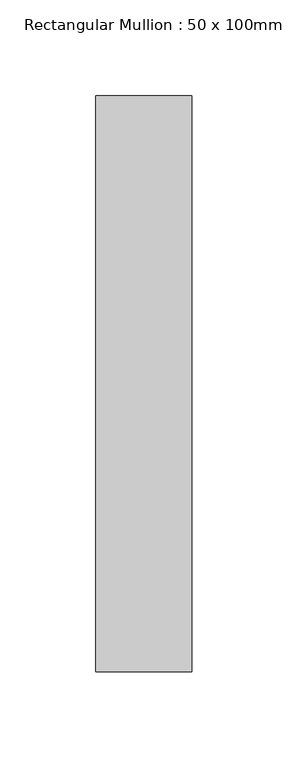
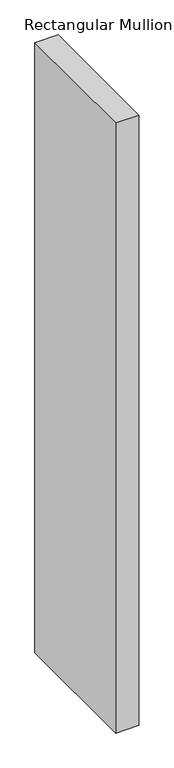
"""IFC4 building model written with IfcOpenShell, lengths in millimetres: member geometry, Rectangular Mullion : 50 x 100mm."""

import ifcopenshell
import ifcopenshell.guid

model = None  # the IFC model being written
_history = None  # IfcOwnerHistory: only IFC2X3 demands one
_inside = {}  # id of a spatial element -> (the spatial element, [elements in it])
_under = {}  # id of a project, library or spatial element -> (it, [spatial elements below it])
_declared = {}  # id of a project -> (the project, [libraries it declares])
_typed = {}  # id of a type object -> (the type object, [elements of that type])
_made_of = {}  # id of a material, layer set ... -> (it, [elements and type objects made of it])


def new_model(schema):
    """Start an empty IFC model of exactly this schema.

    Asked for "IFC4X3", IfcOpenShell would pick the latest addendum, in which some entities
    have other attributes; the version numbers below select the first issue.
    IFC2X3 requires an IfcOwnerHistory on every rooted entity: one is made here for all.
    """
    global model, _history
    if schema == "IFC4X3":
        model = ifcopenshell.file(schema_version=(4, 3, 0, 0))
    else:
        model = ifcopenshell.file(schema=schema)
    _inside.clear()
    _under.clear()
    _declared.clear()
    _typed.clear()
    _made_of.clear()
    _history = None
    if model.schema == "IFC2X3":
        org = make("IfcOrganization", Name="unknown")
        user = make(
            "IfcPersonAndOrganization",
            ThePerson=make("IfcPerson", FamilyName="unknown"),
            TheOrganization=org,
        )
        app = make(
            "IfcApplication",
            ApplicationDeveloper=org,
            Version="unknown",
            ApplicationFullName="unknown",
            ApplicationIdentifier="unknown",
        )
        _history = make(
            "IfcOwnerHistory",
            OwningUser=user,
            OwningApplication=app,
            ChangeAction="ADDED",
            CreationDate=0,
        )
    return model


def make(cls, **values):
    """One entity of the class cls with the attributes given. An attribute that is None is left unset."""
    return model.create_entity(
        cls, **{name: value for name, value in values.items() if value is not None}
    )


def rooted(cls, **values):
    """An entity with a GlobalId (a new one), such as an element, a storey or a relation."""
    return make(cls, GlobalId=ifcopenshell.guid.new(), OwnerHistory=_history, **values)


def si_unit(unit_type, name, prefix=None):
    """IfcSIUnit, for example si_unit("LENGTHUNIT", "METRE", prefix="MILLI")."""
    return make("IfcSIUnit", UnitType=unit_type, Prefix=prefix, Name=name)


def assignment(units):
    """IfcUnitAssignment: the units of a project."""
    return None if units is None else make("IfcUnitAssignment", Units=units)


def point(xyz):
    """IfcCartesianPoint."""
    return None if xyz is None else make("IfcCartesianPoint", Coordinates=xyz)


def direction(xyz):
    """IfcDirection."""
    return None if xyz is None else make("IfcDirection", DirectionRatios=xyz)


def frame(location, z_axis=None, x_axis=None):
    """IfcAxis2Placement3D, a coordinate frame: its origin and axes. An axis left out is left unset."""
    return make(
        "IfcAxis2Placement3D",
        Location=point(location),
        Axis=direction(z_axis),
        RefDirection=direction(x_axis),
    )


def origin():
    """The frame at (0, 0, 0) with its axes left unset."""
    return frame((0.0, 0.0, 0.0))


def place(relative_to, where):
    """IfcLocalPlacement: puts the frame where relative to a parent placement (None: the world)."""
    return make(
        "IfcLocalPlacement", PlacementRelTo=relative_to, RelativePlacement=where
    )


def context(
    kind, dimensions, precision=None, world=None, true_north=None, identifier=None
):
    """IfcGeometricRepresentationContext, for example the 3D "Model" context."""
    return make(
        "IfcGeometricRepresentationContext",
        ContextIdentifier=identifier,
        ContextType=kind,
        CoordinateSpaceDimension=dimensions,
        Precision=precision,
        WorldCoordinateSystem=world,
        TrueNorth=true_north,
    )


def project(units=None, contexts=None):
    """IfcProject with its units and contexts."""
    return rooted(
        "IfcProject",
        Name="project",
        RepresentationContexts=contexts,
        UnitsInContext=assignment(units),
    )


def spatial(cls, under=None, at=None, **own):
    """A site, building, storey or space (cls), placed at a placement, below another one or the project."""
    s = rooted(cls, ObjectPlacement=at, **own)
    if under is not None:
        _under.setdefault(under.id(), (under, []))[1].append(s)
    return s


def polyline(points):
    """IfcPolyline through the points."""
    return make("IfcPolyline", Points=[point(p) for p in points])


def outline(outer, holes=None, kind="AREA"):
    """IfcArbitraryClosedProfileDef: a profile drawn as a closed curve; with holes, ...WithVoids."""
    if holes is None:
        return make("IfcArbitraryClosedProfileDef", ProfileType=kind, OuterCurve=outer)
    return make(
        "IfcArbitraryProfileDefWithVoids",
        ProfileType=kind,
        OuterCurve=outer,
        InnerCurves=holes,
    )


def extrude(swept, where, along, depth):
    """IfcExtrudedAreaSolid: the profile swept, set in the frame where, extruded along a direction by depth."""
    return make(
        "IfcExtrudedAreaSolid",
        SweptArea=swept,
        Position=where,
        ExtrudedDirection=direction(along),
        Depth=depth,
    )


def shape(context_of_items, identifier, shape_type, items):
    """IfcShapeRepresentation: the items that make up one representation, for example the "Body"."""
    return make(
        "IfcShapeRepresentation",
        ContextOfItems=context_of_items,
        RepresentationIdentifier=identifier,
        RepresentationType=shape_type,
        Items=items,
    )


def source(mapping_origin, context_of_items, identifier, shape_type, items):
    """IfcRepresentationMap: a shape defined once, which mapped items show again and again."""
    return make(
        "IfcRepresentationMap",
        MappingOrigin=mapping_origin,
        MappedRepresentation=shape(context_of_items, identifier, shape_type, items),
    )


def transform(
    local_origin,
    x_axis=None,
    y_axis=None,
    z_axis=None,
    scale=None,
    scale2=None,
    scale3=None,
    uniform=True,
):
    """IfcCartesianTransformationOperator3D, or its non-uniform kind. x_axis, y_axis, z_axis: its Axis1, 2, 3."""
    if uniform:
        return make(
            "IfcCartesianTransformationOperator3D",
            Axis1=direction(x_axis),
            Axis2=direction(y_axis),
            LocalOrigin=point(local_origin),
            Scale=scale,
            Axis3=direction(z_axis),
        )
    return make(
        "IfcCartesianTransformationOperator3DnonUniform",
        Axis1=direction(x_axis),
        Axis2=direction(y_axis),
        LocalOrigin=point(local_origin),
        Scale=scale,
        Axis3=direction(z_axis),
        Scale2=scale2,
        Scale3=scale3,
    )


def mapped(mapping_source, mapping_target):
    """IfcMappedItem: shows the shape of a source again, moved by a transform."""
    return make(
        "IfcMappedItem", MappingSource=mapping_source, MappingTarget=mapping_target
    )


def made_of(thing, what):
    """Note that an element or type object is made of a material, layer set ...; save() writes the relation."""
    if what is not None:
        _made_of.setdefault(what.id(), (what, []))[1].append(thing)
    return thing


def element(
    cls,
    number,
    at=None,
    inside=None,
    cuts=None,
    type_object=None,
    material=None,
    context=None,
    identifier="Body",
    shape_type=None,
    held_by="IfcProductDefinitionShape",
    body=None,
    shapes=None,
    **own,
):
    """One element of the class cls, such as IfcWall. Its Tag is "e" and its number.

    at: its placement. inside: the storey or other place that contains it. cuts: it is an
    opening in that element (IfcRelVoidsElement). A single representation is given by context,
    identifier, shape_type and body (its items); several are given by shapes. held_by: the class
    of the entity that holds the representations. save() writes the other relations.
    """
    e = rooted(cls, Tag="e%d" % number, ObjectPlacement=at, **own)
    if body is not None:
        shapes = [shape(context, identifier, shape_type, body)]
    if shapes is not None:
        e.Representation = make(held_by, Representations=shapes)
    if inside is not None:
        _inside.setdefault(inside.id(), (inside, []))[1].append(e)
    if cuts is not None:
        rooted(
            "IfcRelVoidsElement", RelatingBuildingElement=cuts, RelatedOpeningElement=e
        )
    if type_object is not None:
        _typed.setdefault(type_object.id(), (type_object, []))[1].append(e)
    return made_of(e, material)


def aggregate(whole, parts):
    """IfcRelAggregates: a whole, such as a stair, and the parts it consists of."""
    return rooted("IfcRelAggregates", RelatingObject=whole, RelatedObjects=parts)


def save(model, path):
    """Write the relations noted so far, then the file.

    IfcRelAggregates (storeys below a building ...), IfcRelContainedInSpatialStructure (elements
    in a storey), IfcRelDefinesByType, IfcRelAssociatesMaterial and IfcRelDeclares: one each for
    every whole, place, type object, material and project.
    """
    for whole, parts in _under.values():
        aggregate(whole, parts)
    for where, things in _inside.values():
        rooted(
            "IfcRelContainedInSpatialStructure",
            RelatedElements=things,
            RelatingStructure=where,
        )
    for kind, things in _typed.values():
        rooted("IfcRelDefinesByType", RelatedObjects=things, RelatingType=kind)
    for what, things in _made_of.values():
        rooted("IfcRelAssociatesMaterial", RelatedObjects=things, RelatingMaterial=what)
    for by, libraries in _declared.values():
        rooted("IfcRelDeclares", RelatingContext=by, RelatedDefinitions=libraries)
    model.write(path)


def rectangular_mullion_50_x_100mm_2c65ea40(model_context):
    return source(origin(), model_context, "Body", "SweptSolid", [
        extrude(outline(polyline([(25.0, 175.0), (25.0, -125.0), (-25.0, -125.0), (-25.0, 175.0), (25.0, 175.0)])), frame((0.0, 0.0, -1385.0309231), z_axis=(0.0, 0.0, 1.0), x_axis=(1.0, 0.0, 0.0)), (0.0, 0.0, 1.0), 1385.0309231),
    ])


if __name__ == "__main__":
    model = new_model("IFC4")
    model_context = context("Model", 3, world=origin())
    ifc_project = project(units=[si_unit("LENGTHUNIT", "METRE", prefix="MILLI")], contexts=[model_context])
    site = spatial("IfcSite", under=ifc_project)
    building = spatial("IfcBuilding", under=site)
    placement = place(None, origin())
    rectangular_mullion_50_x_100mm_shape = rectangular_mullion_50_x_100mm_2c65ea40(model_context)
    element("IfcMember", 1, ObjectType="Rectangular Mullion : 50 x 100mm", at=placement, inside=building, context=model_context, shape_type="MappedRepresentation", body=[
        mapped(rectangular_mullion_50_x_100mm_shape, transform((0.0, 0.0, 0.0), x_axis=(1.0, 0.0, 0.0), y_axis=(0.0, 1.0, 0.0), z_axis=(0.0, 0.0, 1.0))),
    ])
    save(model, "model.ifc")
